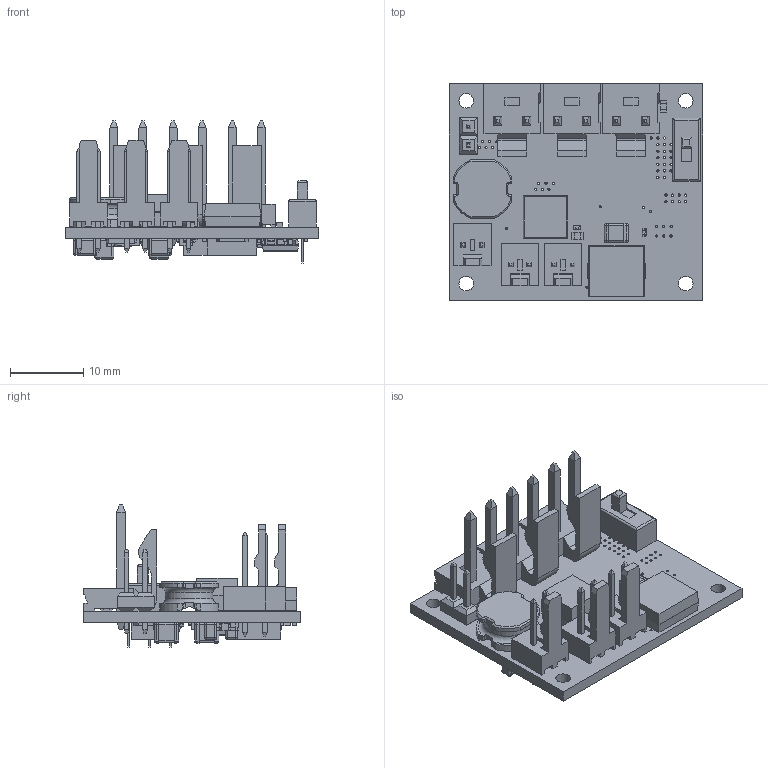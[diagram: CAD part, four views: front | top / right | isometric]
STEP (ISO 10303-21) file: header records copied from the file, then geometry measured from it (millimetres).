
FILE_DESCRIPTION(/* description */ (''),/* implementation_level */ '2;1');
FILE_NAME(/* name */ 'C:/Users/priba/Documents/Temp/Export/mrm-ps3xb v1.step',/* time_stamp */ '2019-09-09T00:18:12+02:00',/* author */ (''),/* organization */ (''),/* preprocessor_version */ 'ST-DEVELOPER v18',/* originating_system */ 'Autodesk Translation Framework v8.6.0.1094',/* authorisation */ '');
FILE_SCHEMA (('AUTOMOTIVE_DESIGN { 1 0 10303 214 3 1 1 }'));
Length unit declared in the file: millimetre
Products named in the file (40): mrm-ps3xb; PCB Component; Board; TDK_SPM6530T-3R3M; Chamfer; FilletPin1; FilletPin2; VISHAY_VS-50WQ10FNPBF; BOURNS_SRN8040-2R2Y; TI_TPS564201; TI_TPS54540DDA; Body; PinsArrayLR; ThermalPad; MOLEX_22-27-2021; INFINEON_BTS443PAUMA1; 30 kOhm; MOLEX_1718130002; 1.5 kOhm; 1X02; 47 uF; Fillet1; Fillet2; body2; 100 nF 10 V; 80.6 kOhm; 47 uF_1; Fillet1 (1); Fillet2 (1); body2 (1); 2.4 nF; 4.7 uF; CHIPLED_0402; TDK_VLS6045EX; Chamfer (1); FilletPin1 (1); FilletPin2 (1); SWITCH_SPDT_PTH_09.0X4.0MM; FIDUCIAL1X2; NEXPERIA_BUK6D43-40PX
Assembly tree (63 placements, depth 4):
  mrm-ps3xb
    PCB Component
      Board
      TDK_SPM6530T-3R3M
        Chamfer
        FilletPin1
        FilletPin2
      VISHAY_VS-50WQ10FNPBF
      BOURNS_SRN8040-2R2Y
      TI_TPS564201  x2
      TI_TPS54540DDA
        Body
        PinsArrayLR
        ThermalPad
      MOLEX_22-27-2021  x3
      INFINEON_BTS443PAUMA1
      30 kOhm
      MOLEX_1718130002  x3
      1.5 kOhm  x2
      1X02
      47 uF  x3
        Fillet1
        Fillet2
        body2
      100 nF 10 V  x3
      80.6 kOhm  x8
      47 uF_1  x2
        Fillet1 (1)
        Fillet2 (1)
        body2 (1)
      2.4 nF
      4.7 uF  x2
      CHIPLED_0402
      TDK_VLS6045EX
        Chamfer (1)
        FilletPin1 (1)
        FilletPin2 (1)
      SWITCH_SPDT_PTH_09.0X4.0MM
      FIDUCIAL1X2  x6
      NEXPERIA_BUK6D43-40PX
Bounding box: 34.6 x 29.63 x 19.42 mm (x, y, z)
Volume: 3624.9 mm3; surface area: 6642.8 mm2
Topology: 75 solids, 75 shells, 2866 faces, 7855 edges, 5119 vertices
Faces by surface type: plane 1718, cylinder 854, sphere 240, bspline 32, torus 14, cone 8
Full cylindrical faces by diameter (mm): 0.3 x75, 0.487 x1, 0.635 x1, 1.016 x5, 1.11 x6, 1.5 x1, 1.6 x1, 1.73 x6, 2 x4, 6.5 x1
Entity records: 50624 total; most frequent: CARTESIAN_POINT 11065, ORIENTED_EDGE 7820, DIRECTION 7713, EDGE_CURVE 3910, LINE 2625, VECTOR 2625, AXIS2_PLACEMENT_3D 2544, VERTEX_POINT 2521
